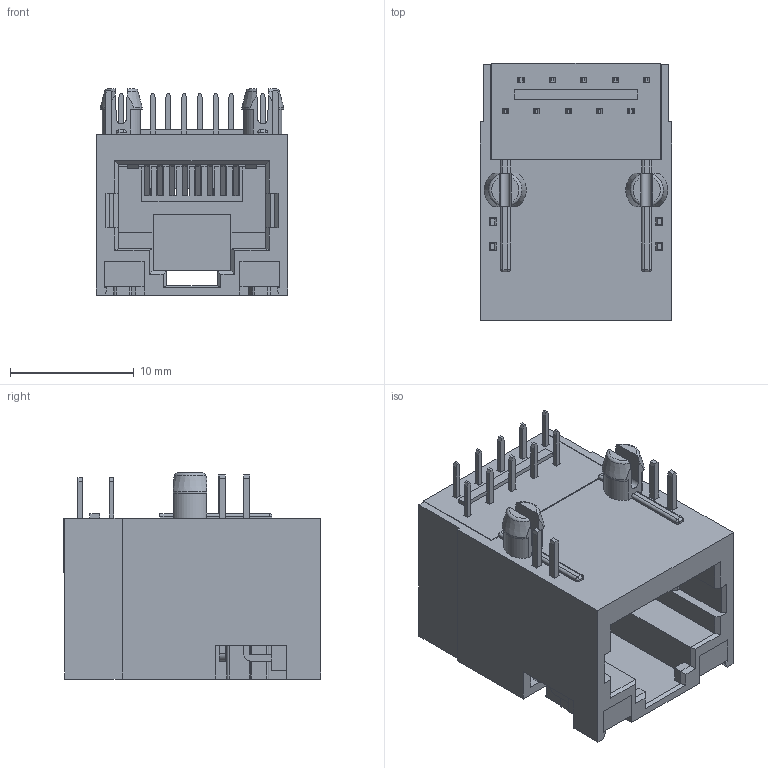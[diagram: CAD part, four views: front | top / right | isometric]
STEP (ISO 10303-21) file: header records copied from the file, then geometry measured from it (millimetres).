
FILE_DESCRIPTION((''),'2;1');
FILE_NAME('ASSEMLY_03_ASM_1_ASM_1_ASM','2025-06-20T13:39:40',('DGKYD'),(''),'CREO PARAMETRIC BY PTC INC, 2019010','CREO PARAMETRIC BY PTC INC, 2019010','');
FILE_SCHEMA(('CONFIG_CONTROL_DESIGN'));
Length unit declared in the file: millimetre
Products named in the file (25): LED_03_01_1_1; LED_03_02_1_1; NEIJIA_03_1_1_1; NEIJIA_03_2_1_1; NEIJIA_03_3_1_1; NEIJIA_03_4_1_1; NEIJIA_03_5_1_1; NEIJIA_03_6_1_1; NEIJIA_03_7_1_1; NEIJIA_03_8_1_1; NEIJIA_03_9_1_1; NEIJIA_03_10_1_1; NEIJIA_03_11_1_1; NEIJIA_03_12_1_1; NEIJIA_03_13_1_1; NEIJIA_03_14_1_1; NEIJIA_03_15_1_1; NEIJIA_03_16_1_1; NEIJIA_03_17_1_1; NEIJIA_03_18_1_1; NEIJIA_03_19_1_1; NEIJIA_03_ASM_1_ASM_1_ASM; NEIKE_03_01_1_1; SULIAOKE_PART_ASM_1_ASM_1_ASM; ASSEMLY_03_ASM_1_ASM_1_ASM
Assembly tree (24 placements, depth 3):
  ASSEMLY_03_ASM_1_ASM_1_ASM
    LED_03_01_1_1
    LED_03_02_1_1
    NEIJIA_03_ASM_1_ASM_1_ASM
      NEIJIA_03_1_1_1
      NEIJIA_03_2_1_1
      NEIJIA_03_3_1_1
      NEIJIA_03_4_1_1
      NEIJIA_03_5_1_1
      NEIJIA_03_6_1_1
      NEIJIA_03_7_1_1
      NEIJIA_03_8_1_1
      NEIJIA_03_9_1_1
      NEIJIA_03_10_1_1
      NEIJIA_03_11_1_1
      NEIJIA_03_12_1_1
      NEIJIA_03_13_1_1
      NEIJIA_03_14_1_1
      NEIJIA_03_15_1_1
      NEIJIA_03_16_1_1
      NEIJIA_03_17_1_1
      NEIJIA_03_18_1_1
      NEIJIA_03_19_1_1
    SULIAOKE_PART_ASM_1_ASM_1_ASM
      NEIKE_03_01_1_1
Bounding box: 15.45 x 20.8 x 16.65 mm (x, y, z)
Volume: 1663.6 mm3; surface area: 4409.1 mm2
Topology: 22 solids, 22 shells, 862 faces, 2481 edges, 1650 vertices
Faces by surface type: plane 749, cylinder 101, sphere 4, cone 4, torus 4
Entity records: 28650 total; most frequent: CARTESIAN_POINT 5170, ORIENTED_EDGE 4954, DIRECTION 4565, EDGE_CURVE 2477, VECTOR 2203, LINE 2203, VERTEX_POINT 1650, AXIS2_PLACEMENT_3D 1181
